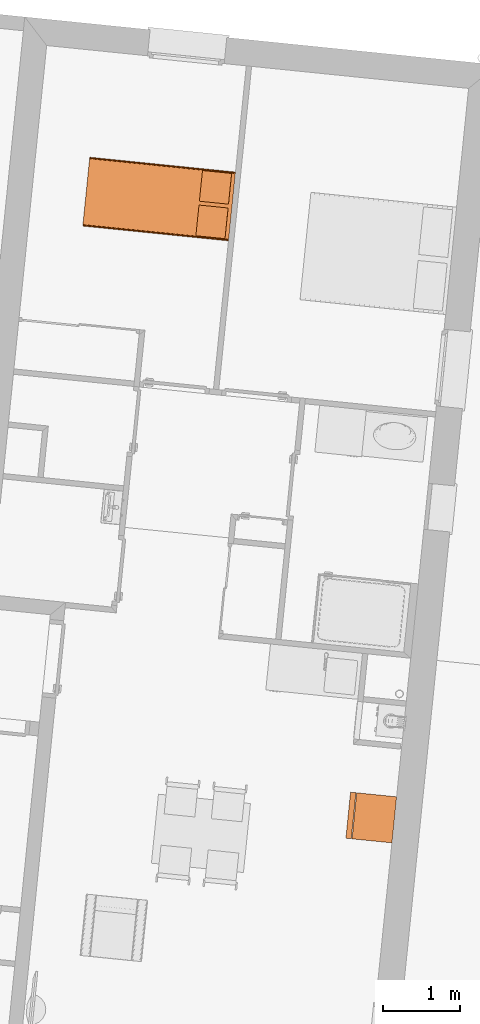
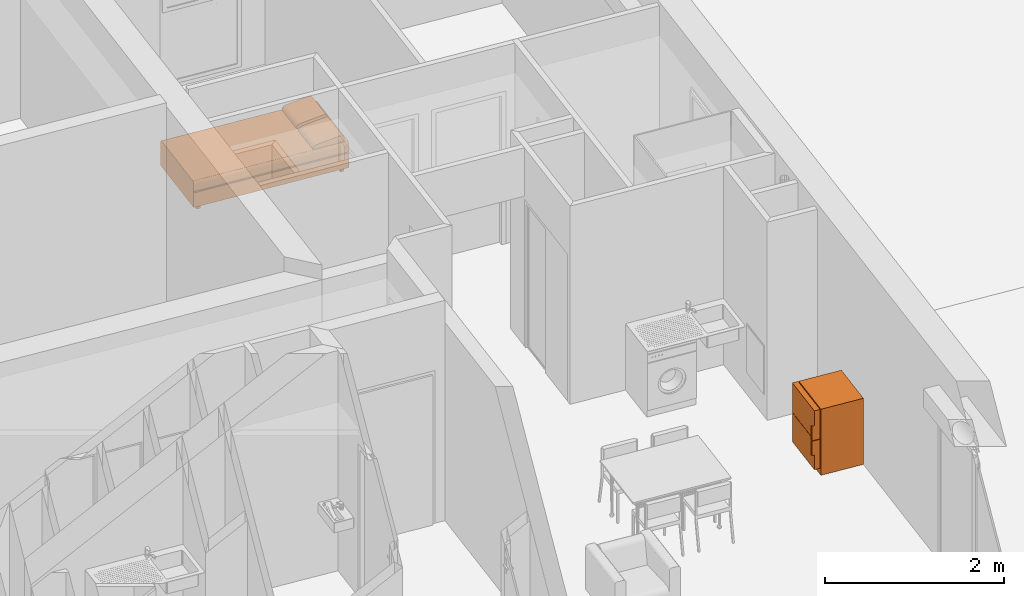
# One storey, part 165 of 171: 2 proxies.
"""IFC2X3 building model written with IfcOpenShell, lengths in millimetres."""

from ifc_helpers import new_model, entity, si_unit, converted_unit, derived_unit, money_unit, direction, frame, origin_with_axes, place, context, subcontext, project, spatial, open_shell, faceted_brep, surface_model, source, transform, mapped, type_object, element, save


model = new_model("IFC2X3")

# Units and contexts
model_context = context("Model", 3, precision=0.01, world=origin_with_axes(), true_north=direction((0.0, 1.0)))
body_context = subcontext(model_context, "Body", "Model", "MODEL_VIEW")
ifc_project = project(units=[si_unit("LENGTHUNIT", "METRE", prefix="MILLI"), si_unit("AREAUNIT", "SQUARE_METRE"), si_unit("VOLUMEUNIT", "CUBIC_METRE"), converted_unit("PLANEANGLEUNIT", "DEGREE", entity("IfcPlaneAngleMeasure", 0.0174532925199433), si_unit("PLANEANGLEUNIT", "RADIAN"), dimensions=[0, 0, 0, 0, 0, 0, 0]), money_unit("USD"), converted_unit("TIMEUNIT", "Year", entity("IfcTimeMeasure", 31557600.0), si_unit("TIMEUNIT", "SECOND"), dimensions=[0, 0, 1, 0, 0, 0, 0]), si_unit("MASSUNIT", "GRAM", prefix="KILO"), si_unit("THERMODYNAMICTEMPERATUREUNIT", "DEGREE_CELSIUS"), si_unit("LUMINOUSINTENSITYUNIT", "LUMEN"), si_unit("ENERGYUNIT", "JOULE", prefix="MEGA"), derived_unit("THERMALCONDUCTANCEUNIT", [(si_unit("POWERUNIT", "WATT"), 1), (si_unit("LENGTHUNIT", "METRE"), -1), (si_unit("THERMODYNAMICTEMPERATUREUNIT", "KELVIN"), -1)]), derived_unit("SPECIFICHEATCAPACITYUNIT", [(si_unit("ENERGYUNIT", "JOULE"), 1), (si_unit("MASSUNIT", "GRAM", prefix="KILO"), -1), (si_unit("THERMODYNAMICTEMPERATUREUNIT", "KELVIN"), -1)]), derived_unit("MASSDENSITYUNIT", [(si_unit("MASSUNIT", "GRAM", prefix="KILO"), 1), (si_unit("VOLUMEUNIT", "CUBIC_METRE"), -1)])], contexts=[model_context])

# Site, building, storey
site_placement = place(None, origin_with_axes())
site = spatial("IfcSite", under=ifc_project, at=site_placement, Name="Site", CompositionType="ELEMENT")
building_placement = place(site_placement, origin_with_axes())
building = spatial("IfcBuilding", under=site, at=building_placement, Name="Bâtiment", CompositionType="ELEMENT")
storey_placement = place(building_placement, frame((0.0, 0.0, 3000.0), z_axis=(0.0, 0.0, 1.0), x_axis=(1.0, 0.0, 0.0)))
storey = spatial("IfcBuildingStorey", under=building, at=storey_placement, Name="rdc", CompositionType="ELEMENT", Elevation=3000.0)

# Proxies
building_element_proxy_type = type_object("IfcBuildingElementProxyType", PredefinedType="NOTDEFINED")
shared_shape_1 = source(origin_with_axes(), body_context, "Body", "SurfaceModel", [
    faceted_brep([(-400.0, -95.0, 0.0), (-425.0000000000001, -95.0, 0.0), (-425.0000000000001, -47.5, 0.0), (-400.0, -47.5, 0.0), (-400.0, -95.0, 50.0), (-425.0000000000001, -95.0, 50.0), (-425.0000000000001, -47.5, 50.0), (-400.0, -47.5, 50.0)], [[[0, 1, 2, 3]], [[1, 0, 4, 5]], [[2, 1, 5, 6]], [[3, 2, 6, 7]], [[0, 3, 7, 4]], [[5, 4, 7, 6]]]),
    faceted_brep([(-400.0, -1852.5, 0.0), (-425.0000000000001, -1852.5, 0.0), (-425.0000000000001, -1805.0, 0.0), (-400.0, -1805.0, 0.0), (-400.0, -1852.5, 50.0), (-425.0000000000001, -1852.5, 50.0), (-425.0000000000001, -1805.0, 50.0), (-400.0, -1805.0, 50.0)], [[[0, 1, 2, 3]], [[1, 0, 4, 5]], [[2, 1, 5, 6]], [[3, 2, 6, 7]], [[0, 3, 7, 4]], [[5, 4, 7, 6]]]),
    faceted_brep([(425.0000000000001, -1852.5, 0.0), (400.0, -1852.5, 0.0), (400.0, -1805.0, 0.0), (425.0000000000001, -1805.0, 0.0), (425.0000000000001, -1852.5, 50.0), (400.0, -1852.5, 50.0), (400.0, -1805.0, 50.0), (425.0000000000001, -1805.0, 50.0)], [[[0, 1, 2, 3]], [[1, 0, 4, 5]], [[2, 1, 5, 6]], [[3, 2, 6, 7]], [[0, 3, 7, 4]], [[5, 4, 7, 6]]]),
    faceted_brep([(425.0000000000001, -94.99999999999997, 0.0), (400.0, -94.99999999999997, 0.0), (400.0, -47.49999999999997, 0.0), (425.0000000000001, -47.49999999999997, 0.0), (425.0000000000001, -94.99999999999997, 50.0), (400.0, -94.99999999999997, 50.0), (400.0, -47.49999999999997, 50.0), (425.0000000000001, -47.49999999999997, 50.0)], [[[0, 1, 2, 3]], [[1, 0, 4, 5]], [[2, 1, 5, 6]], [[3, 2, 6, 7]], [[0, 3, 7, 4]], [[5, 4, 7, 6]]]),
    faceted_brep([(-450.0, 0.0, 50.0), (450.0, 0.0, 50.0), (450.0, -1900.0, 50.00000000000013), (-450.0, -1900.0, 50.00000000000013), (-450.0, 0.0, 250.0), (450.0, 0.0, 250.0), (450.0, -1900.0, 250.0000000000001), (-450.0, -1900.0, 250.0000000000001)], [[[0, 1, 2, 3]], [[0, 4, 5, 1]], [[1, 5, 6, 2]], [[3, 2, 6, 7]], [[4, 0, 3, 7]], [[5, 4, 7, 6]]]),
    surface_model("IfcShellBasedSurfaceModel", [(425.0000000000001, 0.0, 250.0), (429.3412044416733, 0.0, 250.7596123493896), (429.3412044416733, -1900.0, 250.7596123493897), (425.0000000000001, -1900.0, 250.0000000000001), (-425.0000000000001, 0.0, 250.0), (-429.3412044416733, 0.0, 250.7596123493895), (-433.5505035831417, 0.0, 253.0153689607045), (-437.5, 0.0, 256.698729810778), (-441.0696902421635, 0.0, 261.6977778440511), (-444.1511110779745, 0.0, 267.860619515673), (-446.650635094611, 0.0, 275.0), (-448.4923155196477, 0.0, 282.8989928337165), (-449.6201938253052, 0.0, 291.3175911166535), (-450.0, 0.0, 300.0000000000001), (-450.0000000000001, 0.0, 350.0), (-449.6201938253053, 0.0, 358.6824088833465), (-448.4923155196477, 0.0, 367.1010071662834), (-446.650635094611, 0.0, 375.0), (-444.1511110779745, 0.0, 382.139380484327), (-441.0696902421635, 0.0, 388.3022221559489), (-437.5000000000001, 0.0, 393.301270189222), (-433.5505035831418, 0.0, 396.9846310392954), (-429.3412044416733, 0.0, 399.2403876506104), (-425.0000000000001, 0.0, 400.0), (425.0, 0.0, 400.0000000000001), (429.3412044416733, 0.0, 399.2403876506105), (433.5505035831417, 0.0, 396.9846310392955), (437.5, 0.0, 393.301270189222), (441.0696902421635, 0.0, 388.3022221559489), (444.1511110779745, 0.0, 382.139380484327), (446.6506350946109, 0.0, 375.0000000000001), (448.4923155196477, 0.0, 367.1010071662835), (449.6201938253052, 0.0, 358.6824088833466), (450.0, 0.0, 350.0000000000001), (450.0, 0.0, 300.0000000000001), (449.6201938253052, 0.0, 291.3175911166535), (448.4923155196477, 0.0, 282.8989928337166), (446.650635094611, 0.0, 275.0), (444.1511110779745, 0.0, 267.8606195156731), (441.0696902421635, 0.0, 261.6977778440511), (437.5000000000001, 0.0, 256.698729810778), (433.5505035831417, 0.0, 253.0153689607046), (433.5505035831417, -1900.0, 253.0153689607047), (-425.0000000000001, -1900.0, 250.0000000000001), (437.5000000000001, -1900.0, 256.6987298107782), (441.0696902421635, -1900.0, 261.6977778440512), (444.1511110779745, -1900.0, 267.8606195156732), (446.650635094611, -1900.0, 275.0000000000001), (448.4923155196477, -1900.0, 282.8989928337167), (449.6201938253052, -1900.0, 291.3175911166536), (450.0, -1900.0, 300.0000000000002), (450.0, -1900.0, 350.0000000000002), (449.6201938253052, -1900.0, 358.6824088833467), (448.4923155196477, -1900.0, 367.1010071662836), (446.6506350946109, -1900.0, 375.0000000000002), (444.1511110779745, -1900.0, 382.1393804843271), (441.0696902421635, -1900.0, 388.302222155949), (437.5, -1900.0, 393.3012701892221), (433.5505035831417, -1900.0, 396.9846310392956), (429.3412044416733, -1900.0, 399.2403876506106), (425.0, -1900.0, 400.0000000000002), (-425.0000000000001, -1900.0, 400.0000000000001), (-429.3412044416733, -1900.0, 399.2403876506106), (-433.5505035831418, -1900.0, 396.9846310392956), (-437.5000000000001, -1900.0, 393.3012701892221), (-441.0696902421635, -1900.0, 388.302222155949), (-444.1511110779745, -1900.0, 382.1393804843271), (-446.650635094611, -1900.0, 375.0000000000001), (-448.4923155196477, -1900.0, 367.1010071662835), (-449.6201938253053, -1900.0, 358.6824088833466), (-450.0000000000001, -1900.0, 350.0000000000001), (-450.0, -1900.0, 300.0000000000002), (-449.6201938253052, -1900.0, 291.3175911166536), (-448.4923155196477, -1900.0, 282.8989928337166), (-446.650635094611, -1900.0, 275.0000000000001), (-444.1511110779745, -1900.0, 267.8606195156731), (-441.0696902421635, -1900.0, 261.6977778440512), (-437.5, -1900.0, 256.6987298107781), (-433.5505035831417, -1900.0, 253.0153689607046), (-429.3412044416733, -1900.0, 250.7596123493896)], [open_shell([[[0, 1, 2, 3]], [[4, 5, 6, 7, 8, 9, 10, 11, 12, 13, 14, 15, 16, 17, 18, 19, 20, 21, 22, 23, 24, 25, 26, 27, 28, 29, 30, 31, 32, 33, 34, 35, 36, 37, 38, 39, 40, 41, 1, 0]], [[1, 41, 42, 2]], [[43, 3, 2, 42, 44, 45, 46, 47, 48, 49, 50, 51, 52, 53, 54, 55, 56, 57, 58, 59, 60, 61, 62, 63, 64, 65, 66, 67, 68, 69, 70, 71, 72, 73, 74, 75, 76, 77, 78, 79]], [[5, 4, 43, 79]], [[6, 5, 79, 78]], [[7, 6, 78, 77]], [[8, 7, 77, 76]], [[9, 8, 76, 75]], [[10, 9, 75, 74]], [[11, 10, 74, 73]], [[12, 11, 73, 72]], [[13, 12, 72, 71]], [[14, 13, 71, 70]], [[15, 14, 70, 69]], [[16, 15, 69, 68]], [[17, 16, 68, 67]], [[18, 17, 67, 66]], [[19, 18, 66, 65]], [[20, 19, 65, 64]], [[21, 20, 64, 63]], [[22, 21, 63, 62]], [[23, 22, 62, 61]], [[24, 23, 61, 60]], [[25, 24, 60, 59]], [[26, 25, 59, 58]], [[27, 26, 58, 57]], [[28, 27, 57, 56]], [[29, 28, 56, 55]], [[30, 29, 55, 54]], [[31, 30, 54, 53]], [[32, 31, 53, 52]], [[33, 32, 52, 51]], [[34, 33, 51, 50]], [[35, 34, 50, 49]], [[36, 35, 49, 48]], [[37, 36, 48, 47]], [[38, 37, 47, 46]], [[39, 38, 46, 45]], [[40, 39, 45, 44]], [[41, 40, 44, 42]]])]),
    faceted_brep([(24.99999999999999, -47.49999999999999, 400.0), (24.99999999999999, -47.49999999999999, 443.4), (425.0, -47.50000000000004, 443.4000000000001), (425.0, -47.50000000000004, 400.0000000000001), (24.99999999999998, -427.5, 400.0), (24.99999999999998, -427.6960812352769, 408.695442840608), (24.99999999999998, -426.4675711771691, 417.2966661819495), (24.99999999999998, -423.8511300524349, 425.5469991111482), (24.99999999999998, -419.9248356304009, 433.2002417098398), (24.99999999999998, -414.8058532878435, 440.0280119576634), (24.99999999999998, -408.6469396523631, 445.826560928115), (24.99999999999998, -401.6318841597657, 450.4228529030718), (24.99999999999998, -393.9700245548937, 453.6797289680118), (24.99999999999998, -385.89, 455.5), (24.99999999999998, -100.89, 493.0000000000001), (24.99999999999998, -92.85488048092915, 493.3370808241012), (24.99999999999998, -84.88093291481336, 492.2422169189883), (24.99999999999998, -77.19681007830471, 489.7468034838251), (24.99999999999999, -70.02285403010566, 485.922396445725), (24.99999999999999, -63.56477780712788, 480.878660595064), (24.99999999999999, -58.00776660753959, 474.7602249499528), (24.99999999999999, -53.51116760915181, 467.7425355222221), (24.99999999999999, -50.20392069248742, 460.0268244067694), (24.99999999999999, -48.18086109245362, 451.834339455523), (425.0, -48.18086109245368, 451.8343394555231), (425.0, -50.20392069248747, 460.0268244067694), (425.0, -53.51116760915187, 467.7425355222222), (425.0, -58.00776660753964, 474.7602249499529), (425.0, -63.56477780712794, 480.878660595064), (425.0, -70.02285403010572, 485.922396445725), (425.0, -77.19681007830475, 489.7468034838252), (425.0, -84.88093291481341, 492.2422169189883), (425.0, -92.85488048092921, 493.3370808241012), (425.0, -100.8900000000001, 493.0000000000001), (425.0, -385.89, 455.5000000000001), (425.0, -393.9700245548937, 453.6797289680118), (425.0, -401.6318841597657, 450.4228529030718), (425.0, -408.6469396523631, 445.826560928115), (425.0, -414.8058532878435, 440.0280119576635), (425.0, -419.924835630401, 433.2002417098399), (425.0, -423.8511300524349, 425.5469991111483), (425.0, -426.4675711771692, 417.2966661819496), (425.0, -427.6960812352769, 408.6954428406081), (425.0, -427.5, 400.0000000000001)], [[[0, 1, 2, 3]], [[0, 4, 5, 6, 7, 8, 9, 10, 11, 12, 13, 14, 15, 16, 17, 18, 19, 20, 21, 22, 23, 1]], [[1, 23, 24, 2]], [[3, 2, 24, 25, 26, 27, 28, 29, 30, 31, 32, 33, 34, 35, 36, 37, 38, 39, 40, 41, 42, 43]], [[4, 0, 3, 43]], [[5, 4, 43, 42]], [[6, 5, 42, 41]], [[7, 6, 41, 40]], [[8, 7, 40, 39]], [[9, 8, 39, 38]], [[10, 9, 38, 37]], [[11, 10, 37, 36]], [[12, 11, 36, 35]], [[13, 12, 35, 34]], [[14, 13, 34, 33]], [[15, 14, 33, 32]], [[16, 15, 32, 31]], [[17, 16, 31, 30]], [[18, 17, 30, 29]], [[19, 18, 29, 28]], [[20, 19, 28, 27]], [[21, 20, 27, 26]], [[22, 21, 26, 25]], [[23, 22, 25, 24]]]),
    faceted_brep([(-425.0000000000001, -47.49999999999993, 399.9999999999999), (-425.0000000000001, -47.49999999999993, 443.4), (-25.00000000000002, -47.49999999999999, 443.4), (-25.00000000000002, -47.49999999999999, 400.0), (-425.0000000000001, -427.4999999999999, 399.9999999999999), (-425.0000000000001, -427.6960812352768, 408.6954428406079), (-425.0000000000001, -426.4675711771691, 417.2966661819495), (-425.0000000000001, -423.8511300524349, 425.5469991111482), (-425.0000000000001, -419.9248356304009, 433.2002417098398), (-425.0000000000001, -414.8058532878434, 440.0280119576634), (-425.0000000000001, -408.646939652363, 445.8265609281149), (-425.0000000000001, -401.6318841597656, 450.4228529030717), (-425.0000000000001, -393.9700245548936, 453.6797289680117), (-425.0000000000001, -385.8899999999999, 455.4999999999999), (-425.0000000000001, -100.89, 493.0), (-425.0000000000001, -92.8548804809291, 493.3370808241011), (-425.0000000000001, -84.8809329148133, 492.2422169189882), (-425.0000000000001, -77.19681007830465, 489.7468034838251), (-425.0000000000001, -70.0228540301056, 485.9223964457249), (-425.0000000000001, -63.56477780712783, 480.8786605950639), (-425.0000000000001, -58.00776660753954, 474.7602249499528), (-425.0000000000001, -53.51116760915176, 467.7425355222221), (-425.0000000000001, -50.20392069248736, 460.0268244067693), (-425.0000000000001, -48.18086109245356, 451.834339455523), (-25.00000000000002, -48.18086109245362, 451.834339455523), (-25.00000000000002, -50.20392069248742, 460.0268244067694), (-25.00000000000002, -53.51116760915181, 467.7425355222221), (-25.00000000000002, -58.00776660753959, 474.7602249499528), (-25.00000000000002, -63.56477780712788, 480.878660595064), (-25.00000000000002, -70.02285403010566, 485.922396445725), (-25.00000000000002, -77.19681007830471, 489.7468034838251), (-25.00000000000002, -84.88093291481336, 492.2422169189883), (-25.00000000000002, -92.85488048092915, 493.3370808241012), (-25.00000000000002, -100.89, 493.0000000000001), (-25.00000000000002, -385.8899999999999, 455.5), (-25.00000000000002, -393.9700245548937, 453.6797289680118), (-25.00000000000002, -401.6318841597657, 450.4228529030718), (-25.00000000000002, -408.6469396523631, 445.826560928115), (-25.00000000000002, -414.8058532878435, 440.0280119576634), (-25.00000000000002, -419.9248356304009, 433.2002417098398), (-25.00000000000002, -423.8511300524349, 425.5469991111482), (-25.00000000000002, -426.4675711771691, 417.2966661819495), (-25.00000000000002, -427.6960812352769, 408.695442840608), (-25.00000000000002, -427.4999999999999, 400.0)], [[[0, 1, 2, 3]], [[0, 4, 5, 6, 7, 8, 9, 10, 11, 12, 13, 14, 15, 16, 17, 18, 19, 20, 21, 22, 23, 1]], [[1, 23, 24, 2]], [[3, 2, 24, 25, 26, 27, 28, 29, 30, 31, 32, 33, 34, 35, 36, 37, 38, 39, 40, 41, 42, 43]], [[4, 0, 3, 43]], [[5, 4, 43, 42]], [[6, 5, 42, 41]], [[7, 6, 41, 40]], [[8, 7, 40, 39]], [[9, 8, 39, 38]], [[10, 9, 38, 37]], [[11, 10, 37, 36]], [[12, 11, 36, 35]], [[13, 12, 35, 34]], [[14, 13, 34, 33]], [[15, 14, 33, 32]], [[16, 15, 32, 31]], [[17, 16, 31, 30]], [[18, 17, 30, 29]], [[19, 18, 29, 28]], [[20, 19, 28, 27]], [[21, 20, 27, 26]], [[22, 21, 26, 25]], [[23, 22, 25, 24]]]),
])
proxy_1_placement = place(storey_placement, frame((2236740.673358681, -608071.3492002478, 0.0), z_axis=(0.0, 0.0, 1.0), x_axis=(-0.1011033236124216, -0.9948759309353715, 0.0)))
element("IfcBuildingElementProxy", 1, at=proxy_1_placement, inside=storey, type_object=building_element_proxy_type, Name="Obj.-003", context=body_context, shape_type="MappedRepresentation", body=[
    mapped(shared_shape_1, transform((0.0, 0.0, 0.0))),
])
shared_shape_2 = source(origin_with_axes(), body_context, "Body", "SurfaceModel", [
    faceted_brep([(0.0, 80.0, 100.0), (600.0, 80.0, 100.0), (600.0, 80.0, 900.0), (0.0, 80.0, 900.0), (0.0, 600.0, 100.0), (600.0, 600.0, 100.0), (600.0, 600.0, 900.0), (0.0, 600.0, 900.0)], [[[0, 1, 2, 3]], [[0, 4, 5, 1]], [[1, 5, 6, 2]], [[3, 2, 6, 7]], [[4, 0, 3, 7]], [[5, 4, 7, 6]]]),
    faceted_brep([(0.0, 80.0, 0.0), (600.0, 80.0, 0.0), (600.0, 80.0, 100.0), (0.0, 80.0, 100.0), (0.0, 600.0, 0.0), (600.0, 600.0, 0.0), (600.0, 600.0, 100.0), (0.0, 600.0, 100.0)], [[[0, 1, 2, 3]], [[0, 4, 5, 1]], [[1, 5, 6, 2]], [[3, 2, 6, 7]], [[4, 0, 3, 7]], [[5, 4, 7, 6]]]),
    faceted_brep([(0.0, 70.0, 100.0), (600.0, 70.0, 100.0), (600.0, 0.0, 100.0), (0.0, 0.0, 100.0), (0.0, 70.00000000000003, 494.0), (600.0, 70.00000000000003, 494.0), (600.0, 0.0, 494.0), (0.0, 0.0, 494.0)], [[[0, 1, 2, 3]], [[0, 4, 5, 1]], [[1, 5, 6, 2]], [[3, 2, 6, 7]], [[4, 0, 3, 7]], [[5, 4, 7, 6]]]),
    faceted_brep([(0.0, 70.0, 500.0), (600.0, 70.0, 500.0), (600.0, 0.0, 500.0), (0.0, 0.0, 500.0), (0.0, 70.00000000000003, 900.0), (600.0, 70.00000000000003, 900.0), (600.0, 0.0, 900.0), (0.0, 0.0, 900.0)], [[[0, 1, 2, 3]], [[0, 4, 5, 1]], [[1, 5, 6, 2]], [[3, 2, 6, 7]], [[4, 0, 3, 7]], [[5, 4, 7, 6]]]),
    surface_model("IfcShellBasedSurfaceModel", [(600.0, -30.0, 300.0000000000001), (600.0, -30.0, 494.0000000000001), (600.0, 0.0, 494.0000000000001), (600.0, 0.0, 300.0000000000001)], [open_shell([[[0, 1, 2, 3]]])]),
    surface_model("IfcShellBasedSurfaceModel", [(600.0, -30.0, 300.0000000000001), (600.0, -30.0, 494.0000000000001), (570.0, -30.0, 494.0000000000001), (570.0, -30.0, 300.0000000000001)], [open_shell([[[0, 1, 2, 3]]])]),
    surface_model("IfcShellBasedSurfaceModel", [(600.0, -30.0, 500.0), (600.0, -30.0, 700.0), (600.0, 0.0, 700.0), (600.0, 0.0, 500.0)], [open_shell([[[0, 1, 2, 3]]])]),
    surface_model("IfcShellBasedSurfaceModel", [(600.0, -30.0, 500.0), (600.0, -30.0, 700.0), (570.0, -30.0, 700.0), (570.0, -30.0, 500.0)], [open_shell([[[0, 1, 2, 3]]])]),
])
proxy_2_placement = place(storey_placement, frame((2238279.083649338, -615670.0897901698, 0.0), z_axis=(0.0, 0.0, 1.0), x_axis=(-0.1005433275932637, -0.9949326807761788, 0.0)))
element("IfcBuildingElementProxy", 2, at=proxy_2_placement, inside=storey, type_object=building_element_proxy_type, Name="Obj.-019", context=body_context, shape_type="MappedRepresentation", body=[
    mapped(shared_shape_2, transform((0.0, 0.0, 0.0))),
])

save(model, "model.ifc")
